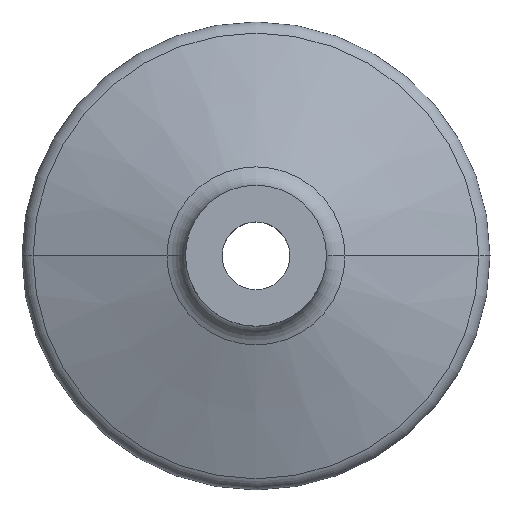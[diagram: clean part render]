
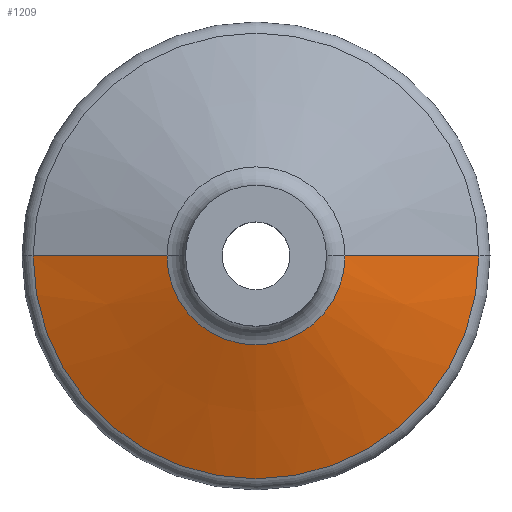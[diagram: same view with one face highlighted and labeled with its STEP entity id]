
A CAD part, top view. The second image highlights one B-rep face of the part: STEP entity #1209.
In plain terms, the highlighted conical face has half-angle 70 degrees and reference radius 27.658 mm.
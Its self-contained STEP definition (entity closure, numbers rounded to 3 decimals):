
#4 = DIRECTION ( 'NONE',  ( 1., 0., 0. ) ) ;
#15 = VERTEX_POINT ( 'NONE', #751 ) ;
#18 = CIRCLE ( 'NONE', #344, 39.526 ) ;
#97 = CARTESIAN_POINT ( 'NONE',  ( 0., 0., 30.961 ) ) ;
#117 = DIRECTION ( 'NONE',  ( 1., 0., 0. ) ) ;
#139 = CARTESIAN_POINT ( 'NONE',  ( 15.79, 0., 30.961 ) ) ;
#146 = EDGE_LOOP ( 'NONE', ( #1081, #529, #171, #1213 ) ) ;
#147 = EDGE_CURVE ( 'NONE', #237, #477, #792, .T. ) ;
#171 = ORIENTED_EDGE ( 'NONE', *, *, #842, .F. ) ;
#194 = VECTOR ( 'NONE', #703, 1000. ) ;
#237 = VERTEX_POINT ( 'NONE', #139 ) ;
#238 = AXIS2_PLACEMENT_3D ( 'NONE', #97, #983, #4 ) ;
#275 = FACE_OUTER_BOUND ( 'NONE', #146, .T. ) ;
#311 = CARTESIAN_POINT ( 'NONE',  ( 0., 0., 22.322 ) ) ;
#344 = AXIS2_PLACEMENT_3D ( 'NONE', #311, #1203, #117 ) ;
#477 = VERTEX_POINT ( 'NONE', #848 ) ;
#492 = CARTESIAN_POINT ( 'NONE',  ( -39.526, 0., 22.322 ) ) ;
#529 = ORIENTED_EDGE ( 'NONE', *, *, #749, .T. ) ;
#579 = CONICAL_SURFACE ( 'NONE', #910, 27.658, 1.222 ) ;
#595 = LINE ( 'NONE', #1197, #194 ) ;
#606 = DIRECTION ( 'NONE',  ( 0., 0., -1. ) ) ;
#611 = CARTESIAN_POINT ( 'NONE',  ( 27.658, 0., 26.642 ) ) ;
#699 = CARTESIAN_POINT ( 'NONE',  ( 0., 0., 26.642 ) ) ;
#703 = DIRECTION ( 'NONE',  ( 0.94, 0., 0.342 ) ) ;
#746 = VERTEX_POINT ( 'NONE', #492 ) ;
#749 = EDGE_CURVE ( 'NONE', #237, #15, #927, .T. ) ;
#751 = CARTESIAN_POINT ( 'NONE',  ( -15.79, 0., 30.961 ) ) ;
#764 = DIRECTION ( 'NONE',  ( 1., 0., 0. ) ) ;
#792 = LINE ( 'NONE', #611, #1103 ) ;
#842 = EDGE_CURVE ( 'NONE', #746, #15, #595, .T. ) ;
#848 = CARTESIAN_POINT ( 'NONE',  ( 39.526, 0., 22.322 ) ) ;
#910 = AXIS2_PLACEMENT_3D ( 'NONE', #699, #606, #764 ) ;
#914 = DIRECTION ( 'NONE',  ( 0.94, 0., -0.342 ) ) ;
#927 = CIRCLE ( 'NONE', #238, 15.79 ) ;
#983 = DIRECTION ( 'NONE',  ( 0., 0., -1. ) ) ;
#1081 = ORIENTED_EDGE ( 'NONE', *, *, #147, .F. ) ;
#1103 = VECTOR ( 'NONE', #914, 1000. ) ;
#1197 = CARTESIAN_POINT ( 'NONE',  ( -27.658, 0., 26.642 ) ) ;
#1203 = DIRECTION ( 'NONE',  ( 0., 0., -1. ) ) ;
#1209 = ADVANCED_FACE ( 'NONE', ( #275 ), #579, .T. ) ;
#1213 = ORIENTED_EDGE ( 'NONE', *, *, #1253, .F. ) ;
#1253 = EDGE_CURVE ( 'NONE', #477, #746, #18, .T. ) ;
